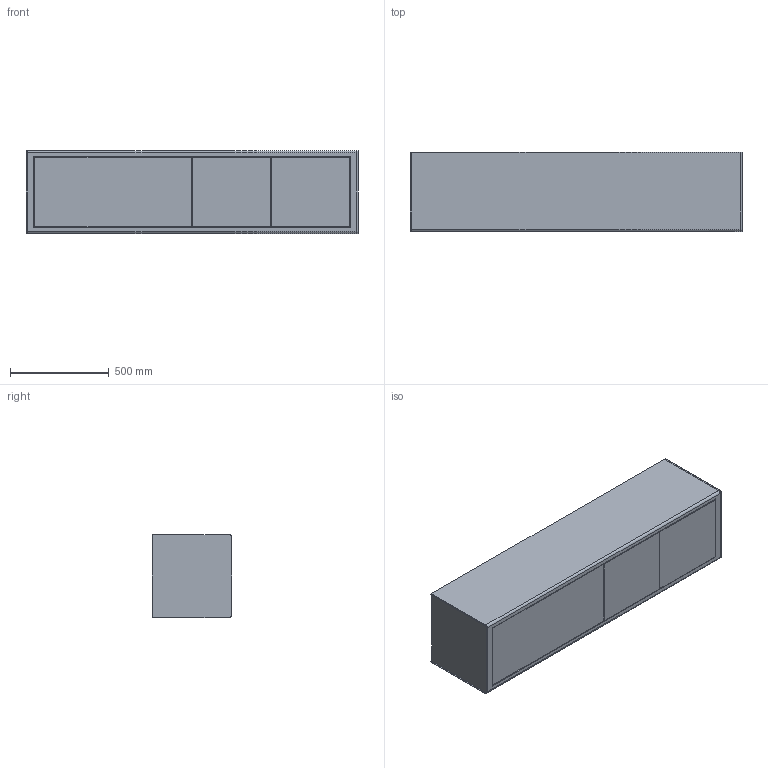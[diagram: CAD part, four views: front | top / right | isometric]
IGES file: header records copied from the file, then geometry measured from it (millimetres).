
Start section: Comment
Global section: file name: S36-H2-168-01.igs; native system:  By UGS Corp.; preprocessor: XPlus GENERIC/IGES 3.0; author: Author; organization: Title; date: 20141218.102437; units: inch
Bounding box: 1680 x 400 x 420 mm (x, y, z)
Surface area: 6535539.9 mm2 (no closed solid volume)
Topology: 0 solids, 0 shells, 40 faces, 204 edges, 204 vertices
Faces by surface type: bspline 40
